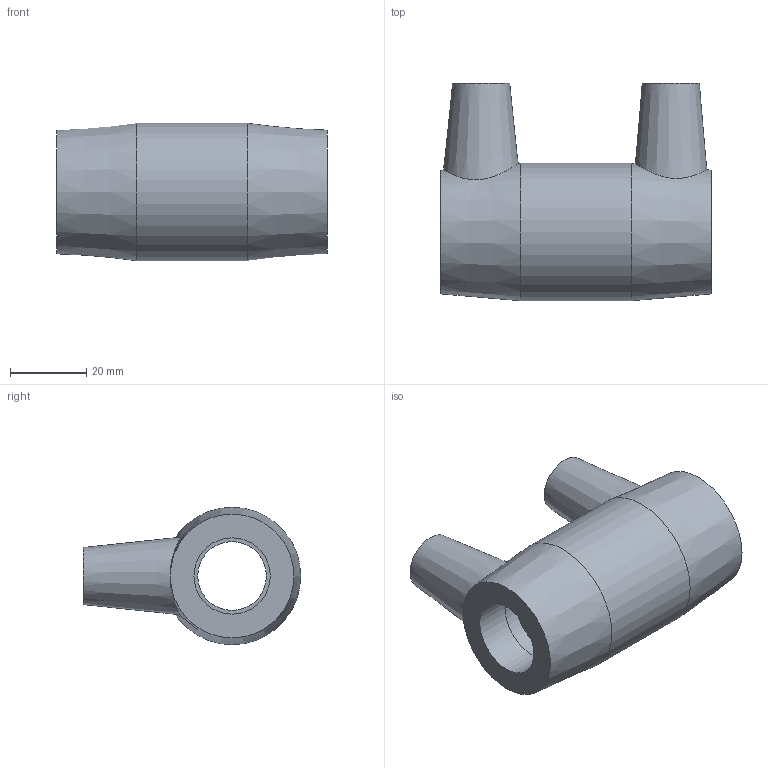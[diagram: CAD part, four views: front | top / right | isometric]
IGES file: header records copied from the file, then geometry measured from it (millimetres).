
Global section: file name: 491104025020.ipt; native system: Autodesk Inventor 2015; preprocessor: unknown; author: KIM; date: 20171106.093714; units: millimetre
Bounding box: 71 x 57 x 36 mm (x, y, z)
Volume: 54209.7 mm3; surface area: 17009 mm2
Topology: 1 solids, 1 shells, 28 faces, 65 edges, 47 vertices
Faces by surface type: plane 12, revolution 9, cone 4, cylinder 3
Full cylindrical faces by diameter (mm): 4 x2, 36 x1
